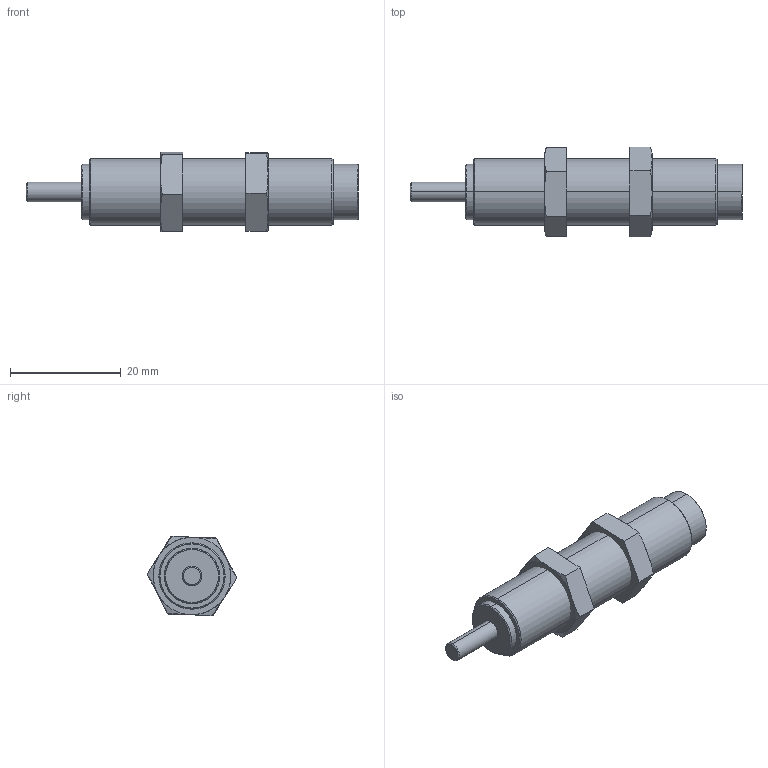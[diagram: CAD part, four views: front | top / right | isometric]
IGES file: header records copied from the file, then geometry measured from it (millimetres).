
Start section: SolidWorks IGES file using analytic representation for surfaces
Global section: file name: C:\Users\Sam Lin\Desktop\48\FSA-1210AA.IGS; native system: SolidWorks 2013; preprocessor: SolidWorks 2013; author: Sam Lin; date: 160317.153306; units: metre
Bounding box: 60 x 16.16 x 14.43 mm (x, y, z)
Surface area: 3133.9 mm2 (no closed solid volume)
Topology: 0 solids, 0 shells, 53 faces, 788 edges, 788 vertices
Faces by surface type: bspline 33, revolution 20
